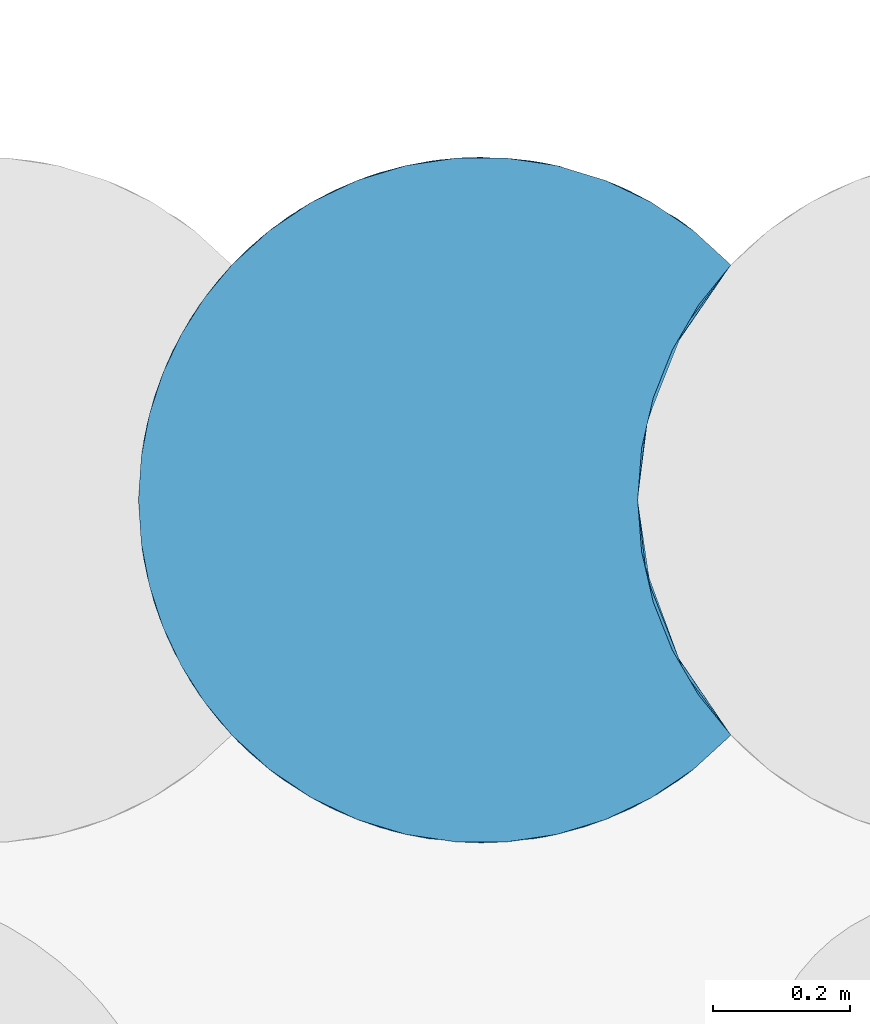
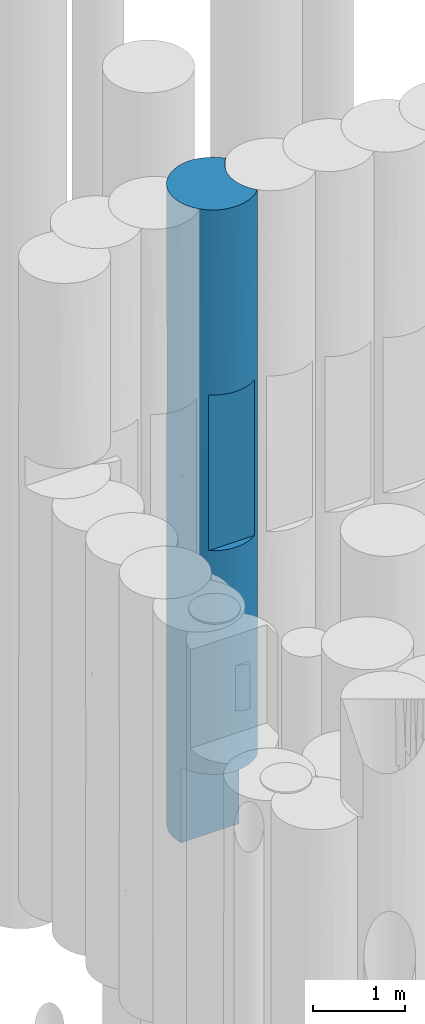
# One storey, part 60 of 104: 1 pile.
"""IFC2X3 building model written with IfcOpenShell, lengths in millimetres."""

import ifcopenshell
import ifcopenshell.guid

model = None  # the IFC model being written
_history = None  # IfcOwnerHistory: only IFC2X3 demands one
_inside = {}  # id of a spatial element -> (the spatial element, [elements in it])
_under = {}  # id of a project, library or spatial element -> (it, [spatial elements below it])
_declared = {}  # id of a project -> (the project, [libraries it declares])
_typed = {}  # id of a type object -> (the type object, [elements of that type])
_made_of = {}  # id of a material, layer set ... -> (it, [elements and type objects made of it])


def new_model(schema):
    """Start an empty IFC model of exactly this schema.

    Asked for "IFC4X3", IfcOpenShell would pick the latest addendum, in which some entities
    have other attributes; the version numbers below select the first issue.
    IFC2X3 requires an IfcOwnerHistory on every rooted entity: one is made here for all.
    """
    global model, _history
    if schema == "IFC4X3":
        model = ifcopenshell.file(schema_version=(4, 3, 0, 0))
    else:
        model = ifcopenshell.file(schema=schema)
    _inside.clear()
    _under.clear()
    _declared.clear()
    _typed.clear()
    _made_of.clear()
    _history = None
    if model.schema == "IFC2X3":
        org = make("IfcOrganization", Name="unknown")
        user = make(
            "IfcPersonAndOrganization",
            ThePerson=make("IfcPerson", FamilyName="unknown"),
            TheOrganization=org,
        )
        app = make(
            "IfcApplication",
            ApplicationDeveloper=org,
            Version="unknown",
            ApplicationFullName="unknown",
            ApplicationIdentifier="unknown",
        )
        _history = make(
            "IfcOwnerHistory",
            OwningUser=user,
            OwningApplication=app,
            ChangeAction="ADDED",
            CreationDate=0,
        )
    return model


def make(cls, **values):
    """One entity of the class cls with the attributes given. An attribute that is None is left unset."""
    return model.create_entity(
        cls, **{name: value for name, value in values.items() if value is not None}
    )


def entity(cls, *values):
    """Any entity or typed value of the class cls, its attributes in the order of the schema. None: left unset."""
    e = model.create_entity(cls)
    for i, value in enumerate(values):
        if value is not None:
            e[i] = value
    return e


def rooted(cls, **values):
    """An entity with a GlobalId (a new one), such as an element, a storey or a relation."""
    return make(cls, GlobalId=ifcopenshell.guid.new(), OwnerHistory=_history, **values)


def si_unit(unit_type, name, prefix=None):
    """IfcSIUnit, for example si_unit("LENGTHUNIT", "METRE", prefix="MILLI")."""
    return make("IfcSIUnit", UnitType=unit_type, Prefix=prefix, Name=name)


def converted_unit(unit_type, name, factor, base, dimensions=None, offset=None):
    """IfcConversionBasedUnit, such as the inch: factor (a typed value) times the base unit."""
    return make(
        "IfcConversionBasedUnit"
        if offset is None
        else "IfcConversionBasedUnitWithOffset",
        ConversionOffset=offset,
        Dimensions=None
        if dimensions is None
        else entity("IfcDimensionalExponents", *dimensions),
        UnitType=unit_type,
        Name=name,
        ConversionFactor=make(
            "IfcMeasureWithUnit", ValueComponent=factor, UnitComponent=base
        ),
    )


def derived_unit(unit_type, elements):
    """IfcDerivedUnit: a product of units, each with its exponent."""
    return make(
        "IfcDerivedUnit",
        Elements=[
            make("IfcDerivedUnitElement", Unit=unit, Exponent=power)
            for unit, power in elements
        ],
        UnitType=unit_type,
    )


def assignment(units):
    """IfcUnitAssignment: the units of a project."""
    return None if units is None else make("IfcUnitAssignment", Units=units)


def point(xyz):
    """IfcCartesianPoint."""
    return None if xyz is None else make("IfcCartesianPoint", Coordinates=xyz)


def direction(xyz):
    """IfcDirection."""
    return None if xyz is None else make("IfcDirection", DirectionRatios=xyz)


def frame(location, z_axis=None, x_axis=None):
    """IfcAxis2Placement3D, a coordinate frame: its origin and axes. An axis left out is left unset."""
    return make(
        "IfcAxis2Placement3D",
        Location=point(location),
        Axis=direction(z_axis),
        RefDirection=direction(x_axis),
    )


def origin():
    """The frame at (0, 0, 0) with its axes left unset."""
    return frame((0.0, 0.0, 0.0))


def place(relative_to, where):
    """IfcLocalPlacement: puts the frame where relative to a parent placement (None: the world)."""
    return make(
        "IfcLocalPlacement", PlacementRelTo=relative_to, RelativePlacement=where
    )


def context(
    kind, dimensions, precision=None, world=None, true_north=None, identifier=None
):
    """IfcGeometricRepresentationContext, for example the 3D "Model" context."""
    return make(
        "IfcGeometricRepresentationContext",
        ContextIdentifier=identifier,
        ContextType=kind,
        CoordinateSpaceDimension=dimensions,
        Precision=precision,
        WorldCoordinateSystem=world,
        TrueNorth=true_north,
    )


def subcontext(parent, identifier, kind, view, scale=None):
    """IfcGeometricRepresentationSubContext, for example "Body" below "Model"."""
    return make(
        "IfcGeometricRepresentationSubContext",
        ContextIdentifier=identifier,
        ContextType=kind,
        ParentContext=parent,
        TargetScale=scale,
        TargetView=view,
    )


def project(units=None, contexts=None):
    """IfcProject with its units and contexts."""
    return rooted(
        "IfcProject",
        Name="project",
        RepresentationContexts=contexts,
        UnitsInContext=assignment(units),
    )


def spatial(cls, under=None, at=None, **own):
    """A site, building, storey or space (cls), placed at a placement, below another one or the project."""
    s = rooted(cls, ObjectPlacement=at, **own)
    if under is not None:
        _under.setdefault(under.id(), (under, []))[1].append(s)
    return s


def faces_of(points, faces, orient=None, outer=None):
    """IfcFace entities. A face is a list of loops; a loop is a list of indices into points, from 0.

    orient and outer hold one flag for each loop. By default every Orientation is true, the
    first loop of a face is its IfcFaceOuterBound and the others are IfcFaceBound.
    """
    made = []
    for i, loops in enumerate(faces):
        bounds = []
        for j, loop in enumerate(loops):
            is_outer = j == 0 if outer is None else outer[i][j]
            bounds.append(
                make(
                    "IfcFaceOuterBound" if is_outer else "IfcFaceBound",
                    Bound=make("IfcPolyLoop", Polygon=[points[k] for k in loop]),
                    Orientation=True if orient is None else orient[i][j],
                )
            )
        made.append(make("IfcFace", Bounds=bounds))
    return made


def faceted_brep(points, faces, orient=None, outer=None, voids=None):
    """IfcFacetedBrep: a solid bounded by flat faces; with voids (closed shells), ...WithVoids."""
    shared = [point(p) for p in points]
    hull = make("IfcClosedShell", CfsFaces=faces_of(shared, faces, orient, outer))
    if voids is None:
        return make("IfcFacetedBrep", Outer=hull)
    return make(
        "IfcFacetedBrepWithVoids",
        Outer=hull,
        Voids=[
            make(cls, CfsFaces=faces_of(shared, fs, o, b)) for cls, fs, o, b in voids
        ],
    )


def shape(context_of_items, identifier, shape_type, items):
    """IfcShapeRepresentation: the items that make up one representation, for example the "Body"."""
    return make(
        "IfcShapeRepresentation",
        ContextOfItems=context_of_items,
        RepresentationIdentifier=identifier,
        RepresentationType=shape_type,
        Items=items,
    )


def source(mapping_origin, context_of_items, identifier, shape_type, items):
    """IfcRepresentationMap: a shape defined once, which mapped items show again and again."""
    return make(
        "IfcRepresentationMap",
        MappingOrigin=mapping_origin,
        MappedRepresentation=shape(context_of_items, identifier, shape_type, items),
    )


def transform(
    local_origin,
    x_axis=None,
    y_axis=None,
    z_axis=None,
    scale=None,
    scale2=None,
    scale3=None,
    uniform=True,
):
    """IfcCartesianTransformationOperator3D, or its non-uniform kind. x_axis, y_axis, z_axis: its Axis1, 2, 3."""
    if uniform:
        return make(
            "IfcCartesianTransformationOperator3D",
            Axis1=direction(x_axis),
            Axis2=direction(y_axis),
            LocalOrigin=point(local_origin),
            Scale=scale,
            Axis3=direction(z_axis),
        )
    return make(
        "IfcCartesianTransformationOperator3DnonUniform",
        Axis1=direction(x_axis),
        Axis2=direction(y_axis),
        LocalOrigin=point(local_origin),
        Scale=scale,
        Axis3=direction(z_axis),
        Scale2=scale2,
        Scale3=scale3,
    )


def mapped(mapping_source, mapping_target):
    """IfcMappedItem: shows the shape of a source again, moved by a transform."""
    return make(
        "IfcMappedItem", MappingSource=mapping_source, MappingTarget=mapping_target
    )


def material(Name=None, Category=None):
    """IfcMaterial."""
    return make("IfcMaterial", Name=Name, Category=Category)


def made_of(thing, what):
    """Note that an element or type object is made of a material, layer set ...; save() writes the relation."""
    if what is not None:
        _made_of.setdefault(what.id(), (what, []))[1].append(thing)
    return thing


def element(
    cls,
    number,
    at=None,
    inside=None,
    cuts=None,
    type_object=None,
    material=None,
    context=None,
    identifier="Body",
    shape_type=None,
    held_by="IfcProductDefinitionShape",
    body=None,
    shapes=None,
    **own,
):
    """One element of the class cls, such as IfcWall. Its Tag is "e" and its number.

    at: its placement. inside: the storey or other place that contains it. cuts: it is an
    opening in that element (IfcRelVoidsElement). A single representation is given by context,
    identifier, shape_type and body (its items); several are given by shapes. held_by: the class
    of the entity that holds the representations. save() writes the other relations.
    """
    e = rooted(cls, Tag="e%d" % number, ObjectPlacement=at, **own)
    if body is not None:
        shapes = [shape(context, identifier, shape_type, body)]
    if shapes is not None:
        e.Representation = make(held_by, Representations=shapes)
    if inside is not None:
        _inside.setdefault(inside.id(), (inside, []))[1].append(e)
    if cuts is not None:
        rooted(
            "IfcRelVoidsElement", RelatingBuildingElement=cuts, RelatedOpeningElement=e
        )
    if type_object is not None:
        _typed.setdefault(type_object.id(), (type_object, []))[1].append(e)
    return made_of(e, material)


def aggregate(whole, parts):
    """IfcRelAggregates: a whole, such as a stair, and the parts it consists of."""
    return rooted("IfcRelAggregates", RelatingObject=whole, RelatedObjects=parts)


def save(model, path):
    """Write the relations noted so far, then the file.

    IfcRelAggregates (storeys below a building ...), IfcRelContainedInSpatialStructure (elements
    in a storey), IfcRelDefinesByType, IfcRelAssociatesMaterial and IfcRelDeclares: one each for
    every whole, place, type object, material and project.
    """
    for whole, parts in _under.values():
        aggregate(whole, parts)
    for where, things in _inside.values():
        rooted(
            "IfcRelContainedInSpatialStructure",
            RelatedElements=things,
            RelatingStructure=where,
        )
    for kind, things in _typed.values():
        rooted("IfcRelDefinesByType", RelatedObjects=things, RelatingType=kind)
    for what, things in _made_of.values():
        rooted("IfcRelAssociatesMaterial", RelatedObjects=things, RelatingMaterial=what)
    for by, libraries in _declared.values():
        rooted("IfcRelDeclares", RelatingContext=by, RelatedDefinitions=libraries)
    model.write(path)


model = new_model("IFC2X3")

# Units and contexts
model_context = context("Model", 3, precision=0.01, world=origin(), true_north=direction((6.12303176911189e-17, 1.0)))
body_context = subcontext(model_context, "Body", "Model", "MODEL_VIEW")
ifc_project = project(units=[si_unit("LENGTHUNIT", "METRE", prefix="MILLI"), si_unit("AREAUNIT", "SQUARE_METRE", prefix="MILLI"), si_unit("VOLUMEUNIT", "CUBIC_METRE"), converted_unit("PLANEANGLEUNIT", "DEGREE", entity("IfcRatioMeasure", 0.0174532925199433), si_unit("PLANEANGLEUNIT", "RADIAN"), dimensions=[0, 0, 0, 0, 0, 0, 0]), si_unit("MASSUNIT", "GRAM", prefix="KILO"), derived_unit("MASSDENSITYUNIT", [(si_unit("MASSUNIT", "GRAM", prefix="KILO"), 1), (si_unit("LENGTHUNIT", "METRE"), -3)]), derived_unit("MOMENTOFINERTIAUNIT", [(si_unit("LENGTHUNIT", "METRE"), 4)]), si_unit("TIMEUNIT", "SECOND"), si_unit("FREQUENCYUNIT", "HERTZ"), si_unit("THERMODYNAMICTEMPERATUREUNIT", "DEGREE_CELSIUS"), derived_unit("THERMALTRANSMITTANCEUNIT", [(si_unit("MASSUNIT", "GRAM", prefix="KILO"), 1), (si_unit("THERMODYNAMICTEMPERATUREUNIT", "KELVIN"), -1), (si_unit("TIMEUNIT", "SECOND"), -3)]), derived_unit("VOLUMETRICFLOWRATEUNIT", [(si_unit("LENGTHUNIT", "METRE"), 3), (si_unit("TIMEUNIT", "SECOND"), -1)]), si_unit("ELECTRICCURRENTUNIT", "AMPERE"), si_unit("ELECTRICVOLTAGEUNIT", "VOLT"), si_unit("POWERUNIT", "WATT"), si_unit("FORCEUNIT", "NEWTON", prefix="KILO"), si_unit("ILLUMINANCEUNIT", "LUX"), si_unit("LUMINOUSFLUXUNIT", "LUMEN"), si_unit("LUMINOUSINTENSITYUNIT", "CANDELA"), derived_unit("USERDEFINED", [(si_unit("MASSUNIT", "GRAM", prefix="KILO"), -1), (si_unit("LENGTHUNIT", "METRE"), -2), (si_unit("TIMEUNIT", "SECOND"), 3), (si_unit("LUMINOUSFLUXUNIT", "LUMEN"), 1)]), derived_unit("LINEARVELOCITYUNIT", [(si_unit("LENGTHUNIT", "METRE"), 1), (si_unit("TIMEUNIT", "SECOND"), -1)]), si_unit("PRESSUREUNIT", "PASCAL"), derived_unit("USERDEFINED", [(si_unit("LENGTHUNIT", "METRE"), -2), (si_unit("MASSUNIT", "GRAM", prefix="KILO"), 1), (si_unit("TIMEUNIT", "SECOND"), -2)]), derived_unit("LINEARFORCEUNIT", [(si_unit("MASSUNIT", "GRAM", prefix="KILO"), 1), (si_unit("LENGTHUNIT", "METRE"), 1), (si_unit("TIMEUNIT", "SECOND"), -2), (si_unit("LENGTHUNIT", "METRE"), -1)]), derived_unit("PLANARFORCEUNIT", [(si_unit("MASSUNIT", "GRAM", prefix="KILO"), 1), (si_unit("LENGTHUNIT", "METRE"), 1), (si_unit("TIMEUNIT", "SECOND"), -2), (si_unit("LENGTHUNIT", "METRE"), -2)])], contexts=[model_context])

# Site, building, storey
site_placement = place(None, origin())
site = spatial("IfcSite", under=ifc_project, at=site_placement, Name="Theater aan de Parade", CompositionType="ELEMENT")
building_placement = place(site_placement, origin())
building = spatial("IfcBuilding", under=site, at=building_placement, Name="Theater aan de Parade", CompositionType="ELEMENT")
storey_placement = place(building_placement, frame((0.0, 0.0, -5520.0)))
storey = spatial("IfcBuildingStorey", under=building, at=storey_placement, Name="-2 kelder", CompositionType="ELEMENT", Elevation=-5520.0)

# Pile
ifc_material = material(Name="00_PBT_MAT_grout")
shared_shape = source(origin(), body_context, "Body", "Brep", [
    faceted_brep([(464.560582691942, 1000.22181762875, 0.0), (538.616668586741, 1000.22280478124, 0.0), (611.860911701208, 989.28522369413, 0.0), (682.68673439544, 967.648790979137, 0.0), (749.540520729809, 935.787802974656, 0.0), (810.955686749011, 894.400737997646, 0.0), (865.595272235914, 844.38383680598, 0.0), (818.150067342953, 785.695330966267, 0.0), (780.078223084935, 720.53458465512, 0.0), (752.247075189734, 650.386060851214, 0.0), (735.29066042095, 576.847851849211, 0.0), (729.595272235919, 501.595272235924, 0.0), (734.989545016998, 428.347920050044, 0.0), (751.055970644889, 356.681032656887, 0.0), (23.0559706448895, 356.681032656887, 0.0), (6.99002046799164, 428.344709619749, 0.0), (1.5952722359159, 501.595272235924, 0.0), (5.55623942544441, 564.406719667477, 0.0), (17.3678310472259, 626.189755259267, 0.0), (36.8430214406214, 686.000655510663, 0.0), (63.6725852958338, 742.891190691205, 0.0), (97.4346759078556, 795.966147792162, 0.0), (137.5957946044, 844.383899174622, 0.0), (192.227350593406, 894.394825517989, 0.0), (253.640398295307, 935.782306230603, 0.0), (320.492432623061, 967.644369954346, 0.0), (391.316996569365, 989.282366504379, 0.0), (865.595272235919, 844.38383680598, 1561.53780933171), (789.401321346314, 910.456713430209, 1491.00548248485), (799.657477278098, 903.041310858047, 2504.8821061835), (26.1639417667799, 656.401764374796, 1423.71039154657), (50.5548382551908, 717.378790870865, 815.522482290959), (716.704326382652, 952.957759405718, 974.743749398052), (575.441567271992, 996.111929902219, 1365.35911550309), (789.401320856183, 910.456713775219, 6978.99451100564), (810.955686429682, 894.400738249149, 8470.0), (865.595272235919, 844.38383680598, 6908.46219066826), (790.879670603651, 909.412065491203, 5813.0119179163), (865.595272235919, 844.38383680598, 5571.73180767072), (865.595272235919, 844.38383680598, 5346.92438133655), (538.616668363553, 1000.22280479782, 8470.0), (611.860911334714, 989.285223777, 8470.0), (575.441567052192, 996.111929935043, 7150.26699538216), (36.7297114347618, 685.714826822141, 2307.62641859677), (64.0996250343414, 743.664598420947, 1628.37591838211), (222.16655921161, 916.227150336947, 956.748364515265), (355.503556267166, 979.776420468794, 1427.16858692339), (501.588606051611, 1001.59527219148, 2596.73325583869), (463.496981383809, 1000.14167953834, 1072.24580175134), (865.595272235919, 844.38383680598, 8470.0), (222.166558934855, 916.227150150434, 1972.30012717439), (217.544033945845, 913.074183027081, 3221.63866937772), (333.161300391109, 972.371224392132, 2861.22474137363), (286.475705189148, 952.952749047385, 7480.63704182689), (192.227350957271, 894.394825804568, 8470.0), (253.640398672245, 935.78230644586, 8470.0), (100.736484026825, 800.446793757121, 6793.03274327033), (163.989554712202, 870.407391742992, 7127.47212773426), (196.918801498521, 898.044825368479, 6218.94986965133), (865.595272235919, 844.38383680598, 4235.0), (785.426204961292, 913.226176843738, 4790.96227754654), (79.757522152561, 770.022008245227, 7621.93766369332), (63.6725852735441, 742.89119065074, 8470.0), (97.4346759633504, 795.966147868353, 8470.0), (692.579720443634, 963.682861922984, 4235.0), (794.511313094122, 906.811502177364, 3679.03770634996), (116.757578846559, 820.812987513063, 1364.08942331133), (716.704325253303, 952.957759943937, 6462.73277506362), (716.704325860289, 952.957759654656, 7495.25624707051), (716.70432577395, 952.957759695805, 2007.26721704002), (36.8430215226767, 686.000655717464, 8470.0), (464.560582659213, 1000.22181762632, 8470.0), (682.686733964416, 967.648791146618, 8470.0), (749.540520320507, 935.787803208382, 8470.0), (1.59527223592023, 501.595272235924, 1058.74569867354), (1.59527223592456, 501.595272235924, 1561.53750746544), (286.475704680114, 952.952748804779, 4235.0), (286.475704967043, 952.952748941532, 6434.30301971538), (236.846141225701, 925.750783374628, 5334.65151001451), (13.5254225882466, 610.167008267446, 7372.75274235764), (17.3678311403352, 626.189755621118, 8470.0), (150.377453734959, 857.468907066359, 2562.8963121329), (79.7181549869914, 769.960131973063, 2632.86902156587), (49.3623188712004, 714.868233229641, 6938.44019104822), (712.525517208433, 954.925650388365, 3129.72297922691), (501.588606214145, 1001.59527219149, 5873.26673738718), (569.755285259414, 996.927698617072, 4755.12996065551), (476.322275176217, 1000.95613936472, 5007.14730889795), (391.316996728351, 989.28236654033, 8470.0), (427.735977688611, 996.109988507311, 7104.64110728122), (9.23358182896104, 588.658271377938, 2342.30656064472), (116.757578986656, 820.812987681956, 5893.90174013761), (33.0262183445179, 676.074616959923, 5347.10350774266), (137.605579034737, 844.3947810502, 8470.0), (438.38163008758, 997.583211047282, 3963.78240309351), (320.492432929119, 967.64437007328, 8470.0), (43.0784257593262, 701.000140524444, 4473.88274990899), (11.2142039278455, 599.198591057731, 4667.65803343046), (1.59527223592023, 501.595272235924, 8470.0), (5.55623942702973, 564.406719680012, 8470.0), (9.51542927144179, 590.237407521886, 5495.65544289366), (116.18581531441, 820.122430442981, 3373.18426703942), (182.11813440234, 886.217630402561, 4288.45203817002), (591.824887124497, 993.386504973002, 3489.10403538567), (18.4305593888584, 630.249305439, 6406.00282362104), (1.59527223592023, 501.595272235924, 2117.50286755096), (1.59527223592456, 501.595272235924, 3123.07501493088), (616.099631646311, 988.30745790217, 2440.53317146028), (386.192771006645, 988.095285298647, 6175.6487371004), (381.519799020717, 986.963051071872, 5169.51578005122), (613.759023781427, 988.852178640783, 6106.01087867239), (692.700363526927, 963.6329807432, 5361.94747271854), (75.4806634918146, 763.179561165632, 5112.43896971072), (135.725798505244, 842.387772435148, 5005.62909266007), (62.9697281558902, 741.611171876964, 3455.71179201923), (97.3058699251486, 795.789220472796, 4263.74923889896), (26.3526093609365, 656.979992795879, 3676.29325435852), (1.59527223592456, 501.595272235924, 3176.26003642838), (1.59527223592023, 501.595272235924, 4234.99353122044), (865.595272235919, 844.38383680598, 3123.07561866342), (865.595272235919, 844.38383680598, 2898.26819232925), (1.59527223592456, 501.595272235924, 5346.92498506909), (1.5952722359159, 501.595272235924, 5571.74329494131), (1.59527223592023, 501.595272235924, 6908.46249253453), (9.64634471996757, 412.229435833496, 1740.22151703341), (142.564343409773, 153.605628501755, 5505.0), (213.720794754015, 92.7820077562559, 4990.0), (213.720794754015, 92.7820077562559, 6020.0), (105.37576096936, 196.619701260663, 4545.53706327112), (23.0559706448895, 356.681032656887, 1000.0), (118.449639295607, 180.348600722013, 2386.24333985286), (32.2105587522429, 329.322259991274, 2204.65565011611), (68.8716500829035, 251.095238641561, 1000.0), (42.9278390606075, 302.537025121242, 1000.0), (789.469749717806, 92.7820077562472, 3960.0), (865.595272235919, 158.806707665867, 2867.49999999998), (865.595272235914, 158.806707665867, 3648.28895539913), (865.595272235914, 158.806707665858, 3801.24999999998), (865.595272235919, 158.806707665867, 4735.0), (865.595272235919, 158.806707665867, 5668.74999999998), (865.59527223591, 158.806707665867, 5821.74150431), (865.595272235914, 158.806707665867, 6602.49999999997), (789.469749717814, 92.7820077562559, 6020.0), (789.46974971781, 92.7820077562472, 4990.0), (8.81770549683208, 416.917827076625, 2646.87500001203), (286.476242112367, 50.2375395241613, 2461.25352631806), (193.933763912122, 107.45773748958, 2892.94860949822), (210.060946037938, 95.3838289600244, 1944.4214221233), (163.989554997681, 132.783152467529, 7198.38299068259), (79.7181554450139, 233.230411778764, 6604.44114999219), (148.072114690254, 148.011651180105, 6362.25477872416), (31.168025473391, 332.189825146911, 6056.32460068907), (75.6889135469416, 239.672051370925, 5520.0471003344), (253.641127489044, 67.4078218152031, 1000.0), (320.49275863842, 35.5460478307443, 1000.0), (55.1581908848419, 276.44214124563, 3318.48656657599), (757.302459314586, 71.9281516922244, 3141.67751696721), (789.630312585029, 92.8951186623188, 2324.13442625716), (391.316418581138, 13.9083086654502, 1000.0), (370.194185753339, 19.1704029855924, 1947.91557910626), (279.55854294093, 53.6000815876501, 3960.0), (391.335021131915, 13.904102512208, 2895.79416024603), (100.567273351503, 202.970852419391, 1000.0), (137.606416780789, 158.794873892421, 1000.0), (464.558867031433, 2.96885427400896, 1000.0), (501.586364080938, 1.59527231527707, 2460.4103360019), (29.9319094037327, 335.662538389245, 4903.36557309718), (121.478204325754, 176.770681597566, 3478.23530613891), (26.1639420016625, 346.788779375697, 7201.0302868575), (5.55623942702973, 438.783824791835, 8470.0), (79.7181554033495, 233.230411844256, 7559.63491729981), (63.6725852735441, 260.299353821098, 8470.0), (36.8430215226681, 317.1898887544, 8470.0), (810.955054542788, 108.789308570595, 1000.0), (865.595272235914, 158.806707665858, 1000.0), (865.595272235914, 158.806707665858, 1780.76885310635), (17.3678311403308, 377.000788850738, 8470.0), (137.605579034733, 158.795763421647, 8470.0), (865.595272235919, 158.806707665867, 7689.2311468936), (865.595272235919, 158.806707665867, 8470.0), (810.955686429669, 108.78980622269, 8470.0), (253.008900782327, 67.7694823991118, 7429.16293872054), (279.558542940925, 53.6000815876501, 6020.0), (749.538137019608, 67.4013802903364, 1000.0), (192.227350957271, 108.795718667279, 8470.0), (192.227830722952, 108.795340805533, 1000.0), (355.503557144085, 23.4141237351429, 7268.21560542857), (14.4159189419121, 389.095149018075, 3705.62500005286), (320.492432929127, 35.5461743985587, 8470.0), (391.316996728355, 13.9081779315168, 8470.0), (350.609564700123, 24.9367822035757, 6020.0), (501.595272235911, 1.59527223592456, 3960.0), (425.205629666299, 7.4651046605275, 3960.0), (538.613909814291, 2.96753486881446, 1000.0), (611.857533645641, 13.9045570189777, 1000.0), (595.049042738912, 10.4065175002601, 1977.18809802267), (682.683430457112, 35.5404697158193, 1000.0), (688.656307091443, 37.9055384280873, 2500.38146572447), (97.4346759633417, 207.224396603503, 8470.0), (682.686733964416, 35.5417533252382, 8470.0), (611.860911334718, 13.9053206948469, 8470.0), (611.870435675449, 13.9074742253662, 7434.83465826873), (595.687386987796, 10.5283990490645, 2967.0115675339), (577.984914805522, 7.4651046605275, 3960.0), (749.540520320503, 67.4027412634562, 8470.0), (716.704326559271, 50.2327851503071, 7267.64689878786), (803.386835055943, 102.945234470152, 7145.86557351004), (577.984914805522, 7.4651046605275, 6020.0), (501.588607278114, 1.5952722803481, 7268.66818084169), (501.595272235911, 1.59527223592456, 6020.0), (723.632001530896, 53.6000815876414, 6020.0), (865.595272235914, 158.806707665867, 2561.54745108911), (652.580979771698, 24.9367822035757, 3960.0), (723.632001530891, 53.6000815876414, 3960.0), (213.720794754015, 92.7820077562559, 3960.0), (253.64039867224, 67.4082380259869, 8470.0), (425.205629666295, 7.4651046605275, 6020.0), (464.560582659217, 2.96872684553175, 8470.0), (652.580979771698, 24.9367822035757, 6020.0), (538.616668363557, 2.96773967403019, 8470.0), (865.595272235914, 158.806707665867, 6908.48300862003), (350.609564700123, 24.9367822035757, 3960.0), (818.150067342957, 217.495213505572, 8470.0), (780.078223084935, 282.655959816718, 8470.0), (752.247075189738, 352.804483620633, 8470.0), (735.29066042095, 426.342692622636, 8470.0), (729.595272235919, 501.595272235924, 8470.0), (735.29066042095, 576.847851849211, 8470.0), (752.247075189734, 650.386060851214, 8470.0), (780.078223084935, 720.53458465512, 8470.0), (818.150067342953, 785.695330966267, 8470.0), (751.055970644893, 356.681032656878, 1000.0), (778.900945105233, 285.089790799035, 1000.0), (817.383474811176, 218.608639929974, 1000.0), (742.379444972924, 613.937328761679, 959.062888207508), (738.151011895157, 593.695972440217, 6638.44327873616), (742.379444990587, 613.937328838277, 7510.93711044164), (729.595272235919, 501.595272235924, 6908.4597613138), (808.681716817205, 771.468907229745, 6638.44327726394), (781.985001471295, 724.40695394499, 5169.28730842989), (797.883005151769, 753.834282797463, 959.062888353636), (764.837270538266, 685.986160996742, 1706.36651512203), (797.883005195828, 753.834282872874, 7510.93711014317), (729.595272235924, 501.595272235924, 1561.54023868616), (729.595272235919, 501.595272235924, 1058.75298998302), (808.681716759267, 771.468907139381, 1831.55672113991), (778.799150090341, 717.888721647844, 2630.65322090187), (766.296890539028, 689.62348691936, 3566.63442778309), (739.967026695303, 602.90756748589, 2500.19182196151), (729.595272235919, 501.595272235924, 3123.08047737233), (729.595272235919, 501.595272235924, 2117.50597996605), (764.837270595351, 685.986161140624, 6763.63348211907), (798.309538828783, 754.56289103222, 4260.62631723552), (810.907944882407, 774.909966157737, 3324.34692372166), (745.175048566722, 625.438103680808, 5612.66192558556), (744.930852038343, 624.47895624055, 4544.29323307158), (738.502483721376, 595.552033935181, 3413.30504808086), (729.595272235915, 501.595272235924, 4235.01242423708), (729.595272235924, 501.595272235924, 5571.72573206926), (729.595272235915, 501.595272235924, 5346.93194686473), (729.595272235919, 501.595272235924, 3176.24701001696), (737.652631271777, 412.194835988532, 1740.61215192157), (796.86362242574, 251.109106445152, 1977.49082641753), (808.103941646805, 232.6249053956, 2870.31406883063), (797.883005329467, 249.356261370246, 7510.9371107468), (762.458274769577, 323.317327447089, 4903.36557316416), (741.179889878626, 394.588663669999, 5988.20523574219), (778.685121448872, 285.53964070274, 5822.23176538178), (742.379445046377, 389.253215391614, 7510.93711054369), (764.837270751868, 317.204382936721, 6763.63348277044), (808.681717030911, 231.721636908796, 6638.44327929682), (736.645152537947, 417.928196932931, 2646.87500001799), (763.601591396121, 320.349887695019, 2739.79071288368), (736.819640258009, 416.906568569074, 5098.3280587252), (739.996017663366, 400.142968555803, 3705.62500000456), (776.673795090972, 289.788436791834, 3825.90126919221), (807.285378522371, 233.91196369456, 5061.9220930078)], [[[0, 1, 2, 3, 4, 5, 6, 7, 8, 9, 10, 11, 12, 13, 14, 15, 16, 17, 18, 19, 20, 21, 22, 23, 24, 25, 26]], [[27, 28, 29]], [[18, 30, 31]], [[4, 3, 32]], [[32, 2, 33]], [[34, 35, 36]], [[37, 36, 38, 39]], [[40, 41, 42]], [[30, 43, 44]], [[45, 46, 25]], [[47, 33, 48]], [[6, 5, 27]], [[35, 49, 36]], [[1, 48, 33]], [[26, 46, 48]], [[50, 51, 52]], [[53, 54, 55]], [[56, 57, 58]], [[39, 59, 60]], [[28, 5, 32]], [[61, 62, 63]], [[64, 60, 65]], [[25, 46, 26]], [[45, 22, 66]], [[24, 23, 45]], [[67, 68, 34]], [[28, 32, 69]], [[25, 24, 45]], [[70, 62, 61]], [[71, 40, 42]], [[68, 72, 73]], [[0, 48, 1]], [[42, 41, 68]], [[17, 16, 74, 75]], [[52, 51, 76]], [[58, 77, 78]], [[31, 21, 20]], [[70, 79, 80]], [[1, 33, 2]], [[66, 50, 45]], [[31, 19, 18]], [[81, 66, 82]], [[79, 70, 83]], [[65, 29, 84]], [[17, 75, 30]], [[85, 86, 87]], [[53, 88, 89]], [[30, 75, 90]], [[30, 18, 17]], [[42, 85, 89]], [[83, 91, 92]], [[57, 61, 93]], [[4, 32, 5]], [[89, 88, 71]], [[52, 94, 47]], [[95, 53, 55]], [[96, 97, 92]], [[42, 89, 71]], [[98, 99, 79]], [[54, 53, 57]], [[93, 54, 57]], [[92, 97, 100]], [[51, 101, 102]], [[103, 64, 84]], [[57, 56, 61]], [[44, 31, 30]], [[100, 104, 92]], [[79, 99, 80]], [[50, 52, 46]], [[66, 22, 21]], [[90, 75, 105, 106]], [[76, 102, 78]], [[107, 33, 47]], [[33, 69, 32]], [[42, 68, 67]], [[108, 85, 109]], [[89, 77, 53]], [[68, 41, 72]], [[110, 42, 67]], [[53, 95, 88]], [[57, 53, 77]], [[32, 3, 2]], [[45, 23, 22]], [[46, 45, 50]], [[68, 73, 35]], [[107, 84, 69]], [[111, 67, 37]], [[112, 91, 113]], [[96, 92, 112]], [[51, 102, 76]], [[101, 114, 115]], [[94, 52, 76]], [[47, 46, 52]], [[109, 94, 76]], [[103, 86, 64]], [[90, 43, 30]], [[116, 106, 117, 118]], [[29, 28, 69]], [[5, 28, 27]], [[84, 29, 69]], [[29, 119, 120, 27]], [[103, 107, 47]], [[65, 60, 59]], [[47, 94, 103]], [[109, 87, 94]], [[94, 86, 103]], [[111, 110, 67]], [[111, 60, 64]], [[119, 65, 59]], [[37, 39, 60]], [[64, 86, 111]], [[110, 86, 85]], [[86, 110, 111]], [[42, 110, 85]], [[29, 65, 119]], [[65, 84, 64]], [[111, 37, 60]], [[37, 67, 34]], [[35, 34, 68]], [[37, 34, 36]], [[78, 109, 76]], [[89, 108, 77]], [[84, 107, 103]], [[33, 107, 69]], [[81, 51, 50]], [[81, 101, 51]], [[115, 113, 102]], [[57, 77, 58]], [[78, 102, 113]], [[109, 78, 77]], [[66, 81, 50]], [[101, 81, 82]], [[114, 101, 82]], [[102, 101, 115]], [[43, 114, 82]], [[114, 116, 96]], [[112, 113, 115]], [[113, 91, 58]], [[115, 114, 96]], [[91, 112, 92]], [[115, 96, 112]], [[118, 97, 116]], [[100, 97, 121]], [[116, 97, 96]], [[121, 97, 118]], [[100, 121, 122, 123]], [[123, 79, 104]], [[113, 58, 78]], [[56, 58, 91]], [[104, 79, 83]], [[79, 123, 98]], [[92, 104, 83]], [[123, 104, 100]], [[106, 116, 90]], [[116, 114, 43]], [[116, 43, 90]], [[44, 82, 66]], [[82, 44, 43]], [[66, 21, 31]], [[66, 31, 44]], [[19, 31, 20]], [[91, 83, 56]], [[61, 56, 83]], [[61, 83, 70]], [[61, 63, 93]], [[26, 48, 0]], [[47, 48, 46]], [[94, 87, 86]], [[109, 85, 87]], [[85, 108, 89]], [[109, 77, 108]], [[124, 105, 75, 74]], [[125, 126, 127]], [[126, 125, 128]], [[129, 15, 14]], [[130, 131, 132]], [[129, 133, 131]], [[134, 135, 136, 137, 138, 139, 140, 141, 142, 143]], [[144, 117, 106, 105]], [[132, 131, 133]], [[129, 124, 74]], [[145, 146, 147]], [[148, 149, 150]], [[149, 151, 152]], [[145, 153, 154]], [[131, 130, 155]], [[135, 156, 157]], [[154, 158, 159]], [[153, 145, 147]], [[160, 145, 161]], [[130, 162, 163]], [[164, 165, 159]], [[122, 166, 151]], [[160, 146, 145]], [[130, 167, 155]], [[123, 168, 169]], [[148, 170, 149]], [[170, 171, 172]], [[173, 174, 175]], [[176, 168, 172]], [[123, 122, 151]], [[170, 172, 168]], [[170, 148, 177]], [[178, 179, 180]], [[181, 127, 182]], [[183, 173, 157]], [[128, 166, 155]], [[184, 177, 148]], [[147, 163, 185]], [[181, 182, 186]], [[187, 166, 118]], [[181, 184, 148]], [[188, 186, 189]], [[186, 188, 181]], [[186, 182, 190]], [[187, 117, 144]], [[131, 144, 124]], [[168, 149, 170]], [[169, 98, 123]], [[168, 151, 149]], [[161, 191, 192]], [[150, 125, 127]], [[165, 164, 193]], [[166, 122, 121, 118]], [[193, 194, 195]], [[195, 196, 197]], [[170, 177, 198]], [[165, 161, 159]], [[199, 200, 201]], [[191, 161, 165]], [[191, 165, 202]], [[127, 148, 150]], [[191, 202, 203]], [[187, 118, 117]], [[204, 205, 206]], [[207, 208, 209]], [[206, 210, 142]], [[157, 175, 211, 135]], [[197, 156, 212]], [[202, 195, 197]], [[130, 146, 167]], [[173, 175, 157]], [[213, 156, 134]], [[146, 160, 214]], [[180, 204, 206]], [[188, 215, 181]], [[183, 197, 196]], [[130, 132, 162]], [[216, 186, 190]], [[208, 217, 189]], [[218, 205, 201]], [[186, 216, 208]], [[156, 135, 134]], [[208, 189, 186]], [[212, 156, 213]], [[217, 208, 219]], [[219, 208, 201]], [[183, 157, 197]], [[218, 201, 207]], [[208, 216, 209]], [[212, 203, 202]], [[169, 168, 176]], [[144, 155, 187]], [[210, 205, 218]], [[128, 214, 126]], [[199, 205, 204]], [[151, 168, 123]], [[206, 142, 141]], [[206, 141, 220, 178]], [[152, 125, 150]], [[219, 201, 200]], [[198, 171, 170]], [[197, 157, 156]], [[152, 166, 128]], [[161, 221, 160]], [[166, 152, 151]], [[166, 187, 155]], [[128, 125, 152]], [[124, 144, 105]], [[144, 131, 155]], [[15, 129, 74]], [[131, 124, 129]], [[180, 206, 178]], [[16, 15, 74]], [[206, 205, 210]], [[152, 150, 149]], [[167, 214, 128]], [[130, 163, 147]], [[214, 167, 146]], [[155, 167, 128]], [[130, 147, 146]], [[153, 147, 185]], [[221, 161, 192]], [[159, 161, 145]], [[154, 159, 145]], [[159, 158, 164]], [[195, 202, 165]], [[212, 202, 197]], [[193, 195, 165]], [[195, 194, 196]], [[184, 181, 215]], [[181, 148, 127]], [[207, 201, 208]], [[199, 201, 205]], [[73, 72, 41, 40, 71, 88, 95, 55, 54, 93, 63, 62, 70, 80, 99, 98, 169, 176, 172, 171, 198, 177, 184, 215, 188, 189, 217, 219, 200, 199, 204, 180, 179, 222, 223, 224, 225, 226, 227, 228, 229, 230, 49, 35]], [[209, 216, 190, 182, 127, 142, 210, 218, 207]], [[214, 134, 143, 142, 127, 126]], [[160, 221, 192, 191, 203, 212, 213, 134, 214]], [[133, 129, 231, 232, 233, 174, 173, 183, 196, 194, 193, 164, 158, 154, 153, 185, 163, 162, 132]], [[129, 14, 13, 231]], [[10, 9, 234]], [[235, 236, 237]], [[38, 238, 239]], [[234, 240, 241]], [[6, 240, 7]], [[234, 9, 240]], [[242, 36, 49]], [[234, 243, 244, 11]], [[237, 236, 226]], [[227, 226, 236]], [[241, 240, 245]], [[246, 247, 248]], [[248, 249, 250, 243]], [[230, 229, 242]], [[236, 251, 242]], [[246, 245, 120]], [[252, 247, 253]], [[236, 242, 229, 228]], [[228, 227, 236]], [[8, 7, 240]], [[254, 255, 239]], [[240, 9, 8]], [[27, 240, 6]], [[10, 234, 11]], [[243, 234, 248]], [[251, 236, 235]], [[230, 242, 49]], [[36, 242, 238]], [[120, 253, 246]], [[245, 240, 27]], [[256, 248, 247]], [[255, 256, 247]], [[242, 251, 238]], [[241, 245, 246]], [[245, 27, 120]], [[241, 246, 248]], [[253, 247, 246]], [[234, 241, 248]], [[256, 249, 248]], [[252, 255, 247]], [[253, 120, 119, 59]], [[255, 257, 256]], [[252, 253, 59]], [[239, 251, 254]], [[235, 237, 258, 259]], [[252, 59, 39, 38]], [[238, 251, 239]], [[38, 36, 238]], [[38, 239, 252]], [[252, 239, 255]], [[235, 259, 254]], [[255, 254, 259]], [[235, 254, 251]], [[256, 257, 260, 249]], [[255, 259, 257]], [[261, 244, 243, 250]], [[211, 262, 263]], [[233, 262, 174]], [[13, 12, 231]], [[222, 179, 264]], [[261, 231, 244]], [[265, 266, 267]], [[268, 237, 226]], [[225, 224, 268]], [[269, 264, 270]], [[271, 272, 261]], [[233, 232, 262]], [[261, 272, 262]], [[223, 264, 268, 224]], [[262, 211, 175, 174]], [[264, 269, 268]], [[271, 250, 249, 260]], [[231, 262, 232]], [[263, 262, 272]], [[266, 265, 273]], [[257, 274, 260]], [[270, 264, 220]], [[223, 222, 264]], [[264, 179, 178, 220]], [[225, 268, 226]], [[237, 268, 266]], [[266, 258, 237]], [[272, 275, 263]], [[269, 267, 266]], [[275, 138, 137, 136]], [[275, 276, 138]], [[275, 136, 263]], [[275, 272, 274]], [[263, 136, 135, 211]], [[274, 273, 265]], [[271, 260, 274]], [[275, 274, 265]], [[250, 271, 261]], [[272, 271, 274]], [[244, 231, 12]], [[262, 231, 261]], [[269, 270, 267]], [[244, 12, 11]], [[267, 270, 140]], [[267, 140, 276]], [[270, 220, 141, 140]], [[276, 265, 267]], [[268, 269, 266]], [[273, 258, 266]], [[265, 276, 275]], [[276, 140, 139, 138]], [[273, 257, 259, 258]], [[257, 273, 274]]]),
])
pile_placement = place(storey_placement, frame((36336.2628578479, 43807.2179922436, -3840.0)))
element("IfcPile", 1, at=pile_placement, inside=storey, material=ifc_material, Name="17_PBT_SFO_grondkering_rond:Ø1000 (grondkering)", ObjectType="17_PBT_SFO_grondkering_rond:Ø1000 (grondkering)", PredefinedType="NOTDEFINED", context=body_context, shape_type="MappedRepresentation", body=[
    mapped(shared_shape, transform((0.0, 0.0, 0.0), scale=1.0)),
])

save(model, "model.ifc")
